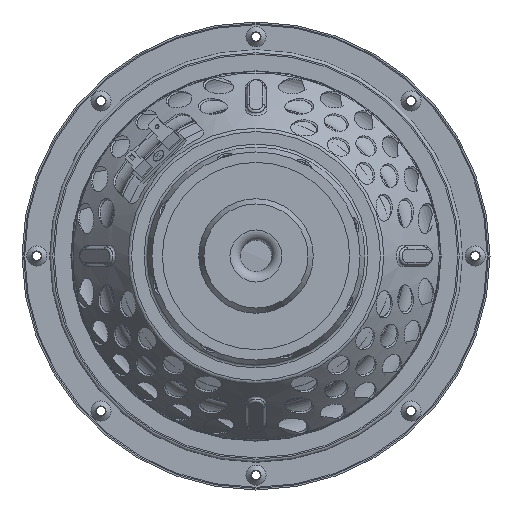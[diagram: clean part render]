
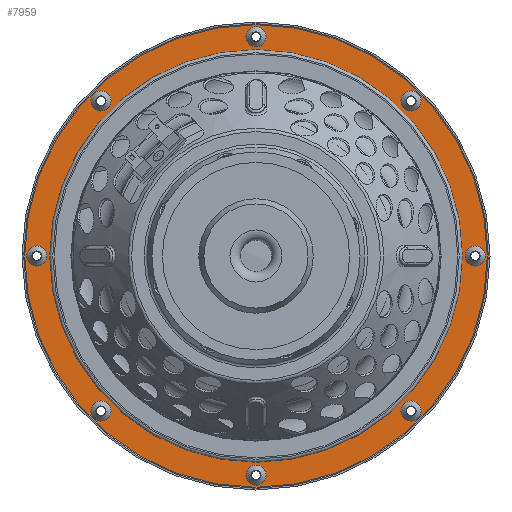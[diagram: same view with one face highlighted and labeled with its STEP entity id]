
A CAD part, left-side view. The second image highlights one B-rep face of the part: STEP entity #7959.
In plain terms, the highlighted planar face has unit normal (-1, 0, 0).
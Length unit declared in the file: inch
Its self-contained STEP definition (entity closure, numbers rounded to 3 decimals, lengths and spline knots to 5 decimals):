
#700=FACE_BOUND('',#1839,.T.);
#701=FACE_BOUND('',#1840,.T.);
#702=FACE_BOUND('',#1841,.T.);
#703=FACE_BOUND('',#1842,.T.);
#704=FACE_BOUND('',#1843,.T.);
#705=FACE_BOUND('',#1844,.T.);
#706=FACE_BOUND('',#1845,.T.);
#707=FACE_BOUND('',#1846,.T.);
#708=FACE_BOUND('',#1847,.T.);
#866=PLANE('',#8670);
#1263=FACE_OUTER_BOUND('',#1838,.T.);
#1838=EDGE_LOOP('',(#7119));
#1839=EDGE_LOOP('',(#7120));
#1840=EDGE_LOOP('',(#7121));
#1841=EDGE_LOOP('',(#7122));
#1842=EDGE_LOOP('',(#7123));
#1843=EDGE_LOOP('',(#7124));
#1844=EDGE_LOOP('',(#7125));
#1845=EDGE_LOOP('',(#7126));
#1846=EDGE_LOOP('',(#7127));
#1847=EDGE_LOOP('',(#7128));
#2004=CIRCLE('',#8259,0.19021);
#2005=CIRCLE('',#8261,0.19021);
#2006=CIRCLE('',#8263,0.19021);
#2080=CIRCLE('',#8385,0.19021);
#2082=CIRCLE('',#8388,0.19021);
#2084=CIRCLE('',#8391,0.19021);
#2086=CIRCLE('',#8394,0.19021);
#2088=CIRCLE('',#8397,3.90551);
#2092=CIRCLE('',#8402,4.37795);
#2238=CIRCLE('',#8671,0.19021);
#3490=VERTEX_POINT('',#17439);
#3491=VERTEX_POINT('',#17443);
#3492=VERTEX_POINT('',#17447);
#3614=VERTEX_POINT('',#20172);
#3616=VERTEX_POINT('',#20178);
#3618=VERTEX_POINT('',#20184);
#3620=VERTEX_POINT('',#20190);
#3622=VERTEX_POINT('',#20196);
#3625=VERTEX_POINT('',#20204);
#3831=VERTEX_POINT('',#27300);
#4392=EDGE_CURVE('',#3490,#3490,#2004,.T.);
#4394=EDGE_CURVE('',#3491,#3491,#2005,.T.);
#4396=EDGE_CURVE('',#3492,#3492,#2006,.T.);
#4575=EDGE_CURVE('',#3614,#3614,#2080,.T.);
#4578=EDGE_CURVE('',#3616,#3616,#2082,.T.);
#4581=EDGE_CURVE('',#3618,#3618,#2084,.T.);
#4584=EDGE_CURVE('',#3620,#3620,#2086,.T.);
#4587=EDGE_CURVE('',#3622,#3622,#2088,.T.);
#4592=EDGE_CURVE('',#3625,#3625,#2092,.T.);
#4964=EDGE_CURVE('',#3831,#3831,#2238,.T.);
#7119=ORIENTED_EDGE('',*,*,#4592,.T.);
#7120=ORIENTED_EDGE('',*,*,#4587,.T.);
#7121=ORIENTED_EDGE('',*,*,#4964,.T.);
#7122=ORIENTED_EDGE('',*,*,#4392,.T.);
#7123=ORIENTED_EDGE('',*,*,#4394,.T.);
#7124=ORIENTED_EDGE('',*,*,#4396,.T.);
#7125=ORIENTED_EDGE('',*,*,#4584,.T.);
#7126=ORIENTED_EDGE('',*,*,#4581,.T.);
#7127=ORIENTED_EDGE('',*,*,#4578,.T.);
#7128=ORIENTED_EDGE('',*,*,#4575,.T.);
#7959=ADVANCED_FACE('',(#1263,#700,#701,#702,#703,#704,#705,#706,#707,#708),
#866,.T.);
#8259=AXIS2_PLACEMENT_3D('',#17440,#9481,#9482);
#8261=AXIS2_PLACEMENT_3D('',#17444,#9486,#9487);
#8263=AXIS2_PLACEMENT_3D('',#17448,#9491,#9492);
#8385=AXIS2_PLACEMENT_3D('',#20173,#9768,#9769);
#8388=AXIS2_PLACEMENT_3D('',#20179,#9775,#9776);
#8391=AXIS2_PLACEMENT_3D('',#20185,#9782,#9783);
#8394=AXIS2_PLACEMENT_3D('',#20191,#9789,#9790);
#8397=AXIS2_PLACEMENT_3D('',#20197,#9796,#9797);
#8402=AXIS2_PLACEMENT_3D('',#20206,#9807,#9808);
#8670=AXIS2_PLACEMENT_3D('',#27299,#10451,#10452);
#8671=AXIS2_PLACEMENT_3D('',#27301,#10453,#10454);
#9481=DIRECTION('center_axis',(1.,0.,0.));
#9482=DIRECTION('ref_axis',(0.,0.,-1.));
#9486=DIRECTION('center_axis',(1.,0.,0.));
#9487=DIRECTION('ref_axis',(0.,0.,-1.));
#9491=DIRECTION('center_axis',(1.,0.,0.));
#9492=DIRECTION('ref_axis',(0.,1.,0.));
#9768=DIRECTION('center_axis',(1.,0.,0.));
#9769=DIRECTION('ref_axis',(0.,0.,
-1.));
#9775=DIRECTION('center_axis',(1.,0.,0.));
#9776=DIRECTION('ref_axis',(0.,0.,-1.));
#9782=DIRECTION('center_axis',(1.,0.,0.));
#9783=DIRECTION('ref_axis',(0.,1.,0.));
#9789=DIRECTION('center_axis',(1.,0.,0.));
#9790=DIRECTION('ref_axis',(0.,1.,0.));
#9796=DIRECTION('center_axis',(1.,0.,0.));
#9797=DIRECTION('ref_axis',(0.,1.,0.));
#9807=DIRECTION('center_axis',(-1.,0.,0.));
#9808=DIRECTION('ref_axis',(0.,0.,-1.));
#10451=DIRECTION('center_axis',(-1.,0.,0.));
#10452=DIRECTION('ref_axis',(0.,0.,
1.));
#10453=DIRECTION('center_axis',(1.,0.,0.));
#10454=DIRECTION('ref_axis',(0.,0.,-1.));
#17439=CARTESIAN_POINT('',(2.90551,2.93421,-2.744));
#17440=CARTESIAN_POINT('Origin',(2.90551,2.93421,-2.93421));
#17443=CARTESIAN_POINT('',(2.90551,4.14961,0.19021));
#17444=CARTESIAN_POINT('Origin',(2.90551,4.14961,0.));
#17447=CARTESIAN_POINT('',(2.90551,2.744,2.93421));
#17448=CARTESIAN_POINT('Origin',(2.90551,2.93421,2.93421));
#20172=CARTESIAN_POINT('',(2.90551,-2.93421,-2.744));
#20173=CARTESIAN_POINT('Origin',(2.90551,-2.93421,-2.93421));
#20178=CARTESIAN_POINT('',(2.90551,-4.14961,0.19021));
#20179=CARTESIAN_POINT('Origin',(2.90551,-4.14961,0.));
#20184=CARTESIAN_POINT('',(2.90551,-3.12443,2.93421));
#20185=CARTESIAN_POINT('Origin',(2.90551,-2.93421,2.93421));
#20190=CARTESIAN_POINT('',(2.90551,-0.19021,4.14961));
#20191=CARTESIAN_POINT('Origin',(2.90551,0.,
4.14961));
#20196=CARTESIAN_POINT('',(2.90551,-3.90551,0.));
#20197=CARTESIAN_POINT('Origin',(2.90551,0.,
0.));
#20204=CARTESIAN_POINT('',(2.90551,0.,4.37795));
#20206=CARTESIAN_POINT('Origin',(2.90551,0.,0.));
#27299=CARTESIAN_POINT('Origin',(2.90551,4.37795,0.));
#27300=CARTESIAN_POINT('',(2.90551,0.,-3.95939));
#27301=CARTESIAN_POINT('Origin',(2.90551,0.,
-4.14961));
